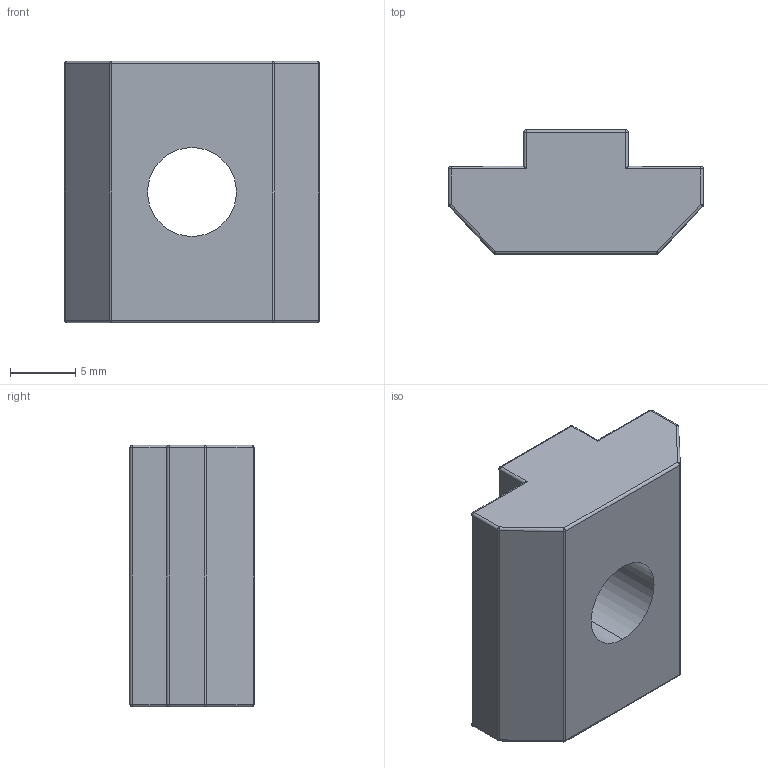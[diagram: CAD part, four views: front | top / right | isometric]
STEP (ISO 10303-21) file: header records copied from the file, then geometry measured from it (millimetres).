
FILE_DESCRIPTION (( 'STEP AP203' ), '1' );
FILE_NAME ('SLN8-84040.STEP', '2018-03-15T12:21:06', ( '' ), ( '' ), 'SwSTEP 2.0', 'SolidWorks 2013', '' );
FILE_SCHEMA (( 'CONFIG_CONTROL_DESIGN' ));
Length unit declared in the file: millimetre
Products named in the file (1): SLN8-84040
Bounding box: 19.5 x 9.5 x 20 mm (x, y, z)
Volume: 2455.3 mm3; surface area: 1469.4 mm2
Topology: 1 solids, 1 shells, 58 faces, 128 edges, 60 vertices
Faces by surface type: cylinder 30, sphere 16, plane 12
Entity records: 1537 total; most frequent: DIRECTION 282, CARTESIAN_POINT 247, ORIENTED_EDGE 232, EDGE_CURVE 116, AXIS2_PLACEMENT_3D 111, VECTOR 60, LINE 60, EDGE_LOOP 60
